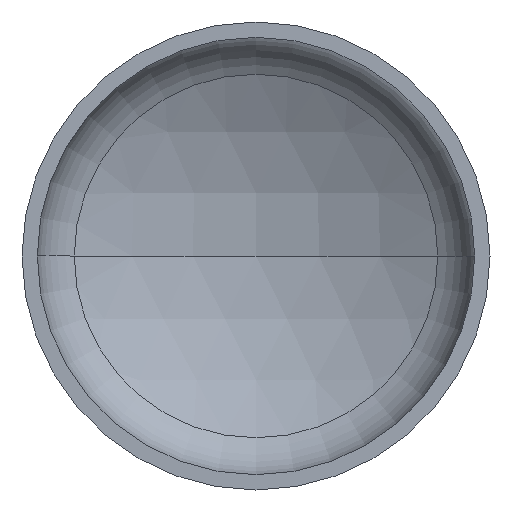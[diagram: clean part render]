
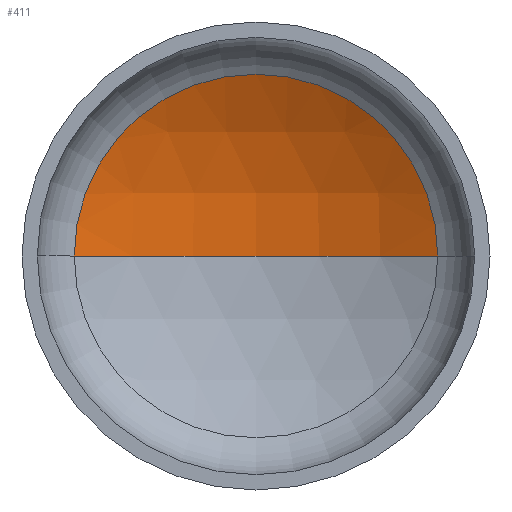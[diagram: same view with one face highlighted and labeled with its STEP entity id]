
A CAD part, front view. The second image highlights one B-rep face of the part: STEP entity #411.
In plain terms, the highlighted spherical face has radius 2400 mm.
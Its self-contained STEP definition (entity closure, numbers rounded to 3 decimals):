
#2 = AXIS2_PLACEMENT_3D ( 'NONE', #221, #364, #43 ) ;
#6 = AXIS2_PLACEMENT_3D ( 'NONE', #108, #366, #167 ) ;
#26 = AXIS2_PLACEMENT_3D ( 'NONE', #166, #162, #163 ) ;
#43 = DIRECTION ( 'NONE',  ( 1., 0., 0. ) ) ;
#60 = EDGE_CURVE ( 'NONE', #339, #157, #64, .T. ) ;
#64 = CIRCLE ( 'NONE', #26, 1165.361 ) ;
#87 = CIRCLE ( 'NONE', #2, 2400. ) ;
#107 = CARTESIAN_POINT ( 'NONE',  ( 0., 804.053, 0. ) ) ;
#108 = CARTESIAN_POINT ( 'NONE',  ( 0., -1595.947, 0. ) ) ;
#135 = CARTESIAN_POINT ( 'NONE',  ( 1165.361, 502.132, 0. ) ) ;
#157 = VERTEX_POINT ( 'NONE', #393 ) ;
#162 = DIRECTION ( 'NONE',  ( 0., -1., 0. ) ) ;
#163 = DIRECTION ( 'NONE',  ( 1., 0., 0. ) ) ;
#166 = CARTESIAN_POINT ( 'NONE',  ( 0., 502.132, 0. ) ) ;
#167 = DIRECTION ( 'NONE',  ( -1., 0., 0. ) ) ;
#182 = ORIENTED_EDGE ( 'NONE', *, *, #60, .T. ) ;
#213 = FACE_OUTER_BOUND ( 'NONE', #253, .T. ) ;
#221 = CARTESIAN_POINT ( 'NONE',  ( 0., -1595.947, 0. ) ) ;
#222 = SPHERICAL_SURFACE ( 'NONE', #370, 2400. ) ;
#226 = DIRECTION ( 'NONE',  ( -1., 0., 0. ) ) ;
#248 = CIRCLE ( 'NONE', #6, 2400. ) ;
#253 = EDGE_LOOP ( 'NONE', ( #264, #332, #182 ) ) ;
#264 = ORIENTED_EDGE ( 'NONE', *, *, #336, .F. ) ;
#283 = CARTESIAN_POINT ( 'NONE',  ( 0., -1595.947, 0. ) ) ;
#319 = EDGE_CURVE ( 'NONE', #345, #339, #248, .T. ) ;
#332 = ORIENTED_EDGE ( 'NONE', *, *, #319, .T. ) ;
#336 = EDGE_CURVE ( 'NONE', #345, #157, #87, .T. ) ;
#339 = VERTEX_POINT ( 'NONE', #135 ) ;
#345 = VERTEX_POINT ( 'NONE', #107 ) ;
#364 = DIRECTION ( 'NONE',  ( 0., 0., 1. ) ) ;
#366 = DIRECTION ( 'NONE',  ( 0., 0., -1. ) ) ;
#370 = AXIS2_PLACEMENT_3D ( 'NONE', #283, #401, #226 ) ;
#393 = CARTESIAN_POINT ( 'NONE',  ( -1165.361, 502.132, 0. ) ) ;
#401 = DIRECTION ( 'NONE',  ( 0., 0., -1. ) ) ;
#411 = ADVANCED_FACE ( 'NONE', ( #213 ), #222, .F. ) ;
